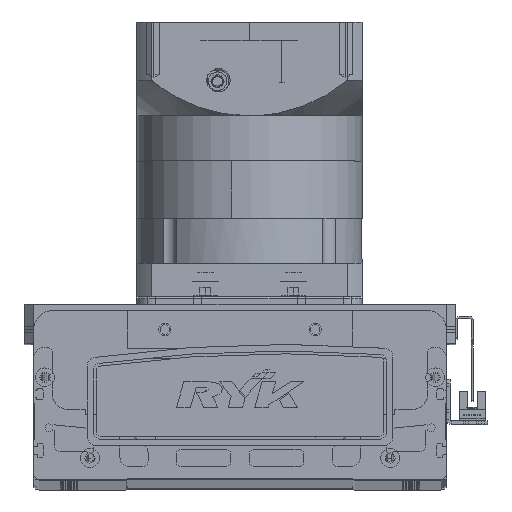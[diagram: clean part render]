
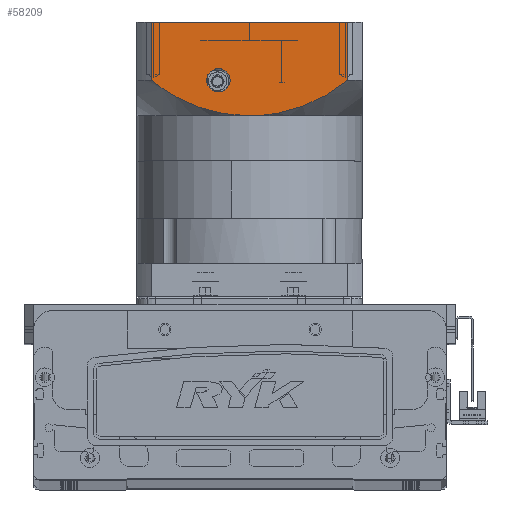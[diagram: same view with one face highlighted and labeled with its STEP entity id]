
A CAD part, top view. The second image highlights one B-rep face of the part: STEP entity #58209.
In plain terms, the highlighted planar face has unit normal (0, 0, 1) as drawn and (0, -1, 0) by its records, which use the part's own axes.
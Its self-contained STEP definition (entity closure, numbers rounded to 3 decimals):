
#971 = CARTESIAN_POINT ( 'NONE',  ( -44.656, -60., -113.73 ) ) ;
#2589 = EDGE_CURVE ( 'NONE', #38838, #19928, #43298, .T. ) ;
#4233 = CARTESIAN_POINT ( 'NONE',  ( -52.156, -60., -97.5 ) ) ;
#4930 = CARTESIAN_POINT ( 'NONE',  ( 19.894, -60., -102.964 ) ) ;
#8144 = AXIS2_PLACEMENT_3D ( 'NONE', #10995, #10287, #50461 ) ;
#8384 = CARTESIAN_POINT ( 'NONE',  ( 52.156, -60., -150.5 ) ) ;
#8534 = CARTESIAN_POINT ( 'NONE',  ( -2.376, -60., -100.5 ) ) ;
#8727 = FACE_OUTER_BOUND ( 'NONE', #57643, .T. ) ;
#10113 = CARTESIAN_POINT ( 'NONE',  ( -52.156, -60., -119.5 ) ) ;
#10287 = DIRECTION ( 'NONE',  ( 0., 1., 0. ) ) ;
#10400 = CARTESIAN_POINT ( 'NONE',  ( 0., -60., -100.5 ) ) ;
#10995 = CARTESIAN_POINT ( 'NONE',  ( 16.5, -60., -119.5 ) ) ;
#11021 = ORIENTED_EDGE ( 'NONE', *, *, #2589, .T. ) ;
#12408 = VERTEX_POINT ( 'NONE', #69274 ) ;
#13632 = DIRECTION ( 'NONE',  ( 1., 0., 0. ) ) ;
#14262 = LINE ( 'NONE', #72874, #57534 ) ;
#14455 = CARTESIAN_POINT ( 'NONE',  ( -23.319, -60., -103.777 ) ) ;
#14824 = EDGE_CURVE ( 'NONE', #37450, #63225, #20048, .T. ) ;
#16290 = CARTESIAN_POINT ( 'NONE',  ( 4.753, -60., -100.5 ) ) ;
#17059 = CARTESIAN_POINT ( 'NONE',  ( -52.156, -60., -150.5 ) ) ;
#18230 = CARTESIAN_POINT ( 'NONE',  ( -48.52, -60., -116.438 ) ) ;
#18441 = DIRECTION ( 'NONE',  ( 0., 1., 0. ) ) ;
#18869 = VERTEX_POINT ( 'NONE', #22966 ) ;
#19625 = CIRCLE ( 'NONE', #33578, 6.25 ) ;
#19720 = ORIENTED_EDGE ( 'NONE', *, *, #52452, .F. ) ;
#19788 = ORIENTED_EDGE ( 'NONE', *, *, #64105, .T. ) ;
#19863 = CARTESIAN_POINT ( 'NONE',  ( -8.294, -60., -100.916 ) ) ;
#19928 = VERTEX_POINT ( 'NONE', #8384 ) ;
#20048 = B_SPLINE_CURVE_WITH_KNOTS ( 'NONE', 3,
 ( #24169, #18230, #971, #57763, #63415, #29621, #69111, #63669, #29863, #14455, #31735, #42336, #65055, #26048, #19863, #48987, #8534, #37404 ),
 .UNSPECIFIED., .F., .F.,
 ( 4, 2, 2, 2, 2, 2, 2, 2, 4 ),
 ( 0., 0.014, 0.018, 0.021, 0.028, 0.042, 0.046, 0.05, 0.057 ),
 .UNSPECIFIED. ) ;
#22216 = CARTESIAN_POINT ( 'NONE',  ( 25.577, -60., -104.596 ) ) ;
#22363 = CIRCLE ( 'NONE', #8144, 6.25 ) ;
#22966 = CARTESIAN_POINT ( 'NONE',  ( 16.5, -60., -125.75 ) ) ;
#23989 = CARTESIAN_POINT ( 'NONE',  ( -60., -60., -150.5 ) ) ;
#24169 = CARTESIAN_POINT ( 'NONE',  ( -52.156, -60., -119.5 ) ) ;
#24779 = ORIENTED_EDGE ( 'NONE', *, *, #40676, .T. ) ;
#26048 = CARTESIAN_POINT ( 'NONE',  ( -9.477, -60., -101.046 ) ) ;
#26930 = CARTESIAN_POINT ( 'NONE',  ( 23.329, -60., -103.886 ) ) ;
#27424 = CARTESIAN_POINT ( 'NONE',  ( 32.196, -60., -107.007 ) ) ;
#27662 = CARTESIAN_POINT ( 'NONE',  ( 15.267, -60., -101.938 ) ) ;
#28610 = CARTESIAN_POINT ( 'NONE',  ( 0., -60., -100.5 ) ) ;
#29621 = CARTESIAN_POINT ( 'NONE',  ( -36.409, -60., -109.113 ) ) ;
#29863 = CARTESIAN_POINT ( 'NONE',  ( -29.939, -60., -106.183 ) ) ;
#30050 = DIRECTION ( 'NONE',  ( 1., 0., 0. ) ) ;
#31735 = CARTESIAN_POINT ( 'NONE',  ( -18.792, -60., -102.562 ) ) ;
#32869 = CARTESIAN_POINT ( 'NONE',  ( 42.555, -60., -112.543 ) ) ;
#32894 = DIRECTION ( 'NONE',  ( 0., 0., 1. ) ) ;
#33578 = AXIS2_PLACEMENT_3D ( 'NONE', #40927, #18441, #57713 ) ;
#33596 = CARTESIAN_POINT ( 'NONE',  ( 41.545, -60., -111.931 ) ) ;
#37404 = CARTESIAN_POINT ( 'NONE',  ( 0., -60., -100.5 ) ) ;
#37450 = VERTEX_POINT ( 'NONE', #10113 ) ;
#38838 = VERTEX_POINT ( 'NONE', #17059 ) ;
#39257 = CARTESIAN_POINT ( 'NONE',  ( 45.542, -60., -114.478 ) ) ;
#40676 = EDGE_CURVE ( 'NONE', #18869, #63943, #22363, .T. ) ;
#40926 = CARTESIAN_POINT ( 'NONE',  ( -60., -60., -150.5 ) ) ;
#40927 = CARTESIAN_POINT ( 'NONE',  ( 16.5, -60., -119.5 ) ) ;
#42336 = CARTESIAN_POINT ( 'NONE',  ( -12.993, -60., -101.537 ) ) ;
#43298 = LINE ( 'NONE', #40926, #65395 ) ;
#43831 = ORIENTED_EDGE ( 'NONE', *, *, #70813, .T. ) ;
#44004 = LINE ( 'NONE', #4233, #62530 ) ;
#45295 = EDGE_CURVE ( 'NONE', #38838, #37450, #44004, .T. ) ;
#48987 = CARTESIAN_POINT ( 'NONE',  ( -4.747, -60., -100.604 ) ) ;
#49811 = EDGE_LOOP ( 'NONE', ( #24779, #19788 ) ) ;
#49874 = CARTESIAN_POINT ( 'NONE',  ( 18.739, -60., -102.681 ) ) ;
#50461 = DIRECTION ( 'NONE',  ( 0., 0., -1. ) ) ;
#51575 = ORIENTED_EDGE ( 'NONE', *, *, #14824, .F. ) ;
#52452 = EDGE_CURVE ( 'NONE', #63225, #12408, #67375, .T. ) ;
#52883 = DIRECTION ( 'NONE',  ( 0., -1., 0. ) ) ;
#55562 = CARTESIAN_POINT ( 'NONE',  ( 36.444, -60., -108.986 ) ) ;
#55809 = CARTESIAN_POINT ( 'NONE',  ( 50.338, -60., -117.969 ) ) ;
#56055 = CARTESIAN_POINT ( 'NONE',  ( 16.426, -60., -102.169 ) ) ;
#57534 = VECTOR ( 'NONE', #57544, 1000. ) ;
#57544 = DIRECTION ( 'NONE',  ( 0., 0., 1. ) ) ;
#57643 = EDGE_LOOP ( 'NONE', ( #67940, #11021, #43831, #19720, #51575 ) ) ;
#57713 = DIRECTION ( 'NONE',  ( 0., 0., -1. ) ) ;
#57763 = CARTESIAN_POINT ( 'NONE',  ( -39.546, -60., -110.776 ) ) ;
#58209 = ADVANCED_FACE ( 'NONE', ( #8727, #66095 ), #64205, .T. ) ;
#61701 = CARTESIAN_POINT ( 'NONE',  ( 9.454, -60., -100.914 ) ) ;
#62530 = VECTOR ( 'NONE', #32894, 1000. ) ;
#63225 = VERTEX_POINT ( 'NONE', #28610 ) ;
#63415 = CARTESIAN_POINT ( 'NONE',  ( -38.51, -60., -110.207 ) ) ;
#63669 = CARTESIAN_POINT ( 'NONE',  ( -32.118, -60., -107.084 ) ) ;
#63943 = VERTEX_POINT ( 'NONE', #67838 ) ;
#64105 = EDGE_CURVE ( 'NONE', #63943, #18869, #19625, .T. ) ;
#64205 = PLANE ( 'NONE',  #64485 ) ;
#64485 = AXIS2_PLACEMENT_3D ( 'NONE', #23989, #52883, #13632 ) ;
#65055 = CARTESIAN_POINT ( 'NONE',  ( -11.825, -60., -101.356 ) ) ;
#65395 = VECTOR ( 'NONE', #30050, 1000. ) ;
#66095 = FACE_BOUND ( 'NONE', #49811, .T. ) ;
#66410 = CARTESIAN_POINT ( 'NONE',  ( 48.457, -60., -116.522 ) ) ;
#67375 = B_SPLINE_CURVE_WITH_KNOTS ( 'NONE', 3,
 ( #10400, #16290, #61701, #27662, #56055, #49874, #4930, #26930, #22216, #27424, #55562, #33596, #32869, #73053, #39257, #66410, #55809, #72832 ),
 .UNSPECIFIED., .F., .F.,
 ( 4, 2, 2, 2, 2, 2, 2, 2, 4 ),
 ( 0., 0.014, 0.018, 0.021, 0.028, 0.042, 0.046, 0.05, 0.057 ),
 .UNSPECIFIED. ) ;
#67838 = CARTESIAN_POINT ( 'NONE',  ( 16.5, -60., -113.25 ) ) ;
#67940 = ORIENTED_EDGE ( 'NONE', *, *, #45295, .F. ) ;
#69111 = CARTESIAN_POINT ( 'NONE',  ( -35.342, -60., -108.587 ) ) ;
#69274 = CARTESIAN_POINT ( 'NONE',  ( 52.156, -60., -119.5 ) ) ;
#70813 = EDGE_CURVE ( 'NONE', #19928, #12408, #14262, .T. ) ;
#72832 = CARTESIAN_POINT ( 'NONE',  ( 52.156, -60., -119.5 ) ) ;
#72874 = CARTESIAN_POINT ( 'NONE',  ( 52.156, -60., -150.5 ) ) ;
#73053 = CARTESIAN_POINT ( 'NONE',  ( 44.553, -60., -113.817 ) ) ;
